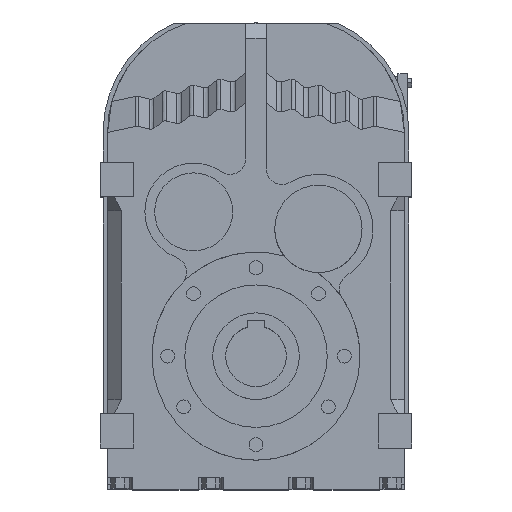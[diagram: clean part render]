
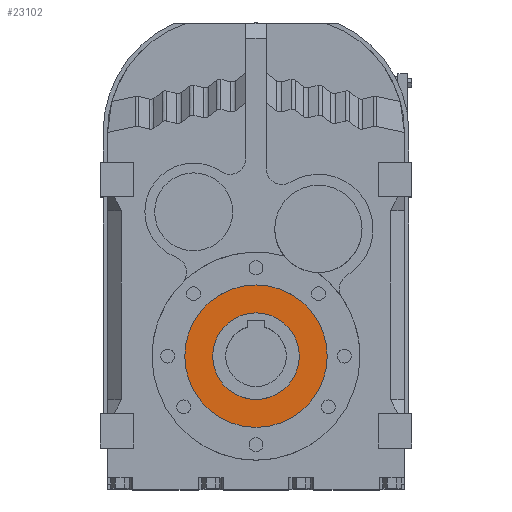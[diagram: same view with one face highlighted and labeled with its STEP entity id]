
A CAD part, top view. The second image highlights one B-rep face of the part: STEP entity #23102.
In plain terms, the highlighted planar face has unit normal (0, 0, 1).
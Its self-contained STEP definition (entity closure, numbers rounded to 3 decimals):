
#16943 = CYLINDRICAL_SURFACE('',#16944,41.1);
#16944 = AXIS2_PLACEMENT_3D('',#16945,#16946,#16947);
#16945 = CARTESIAN_POINT('',(0.,-128.1,110.123));
#16946 = DIRECTION('',(0.,0.,1.));
#16947 = DIRECTION('',(1.,0.,0.));
#16969 = CYLINDRICAL_SURFACE('',#16970,41.1);
#16970 = AXIS2_PLACEMENT_3D('',#16971,#16972,#16973);
#16971 = CARTESIAN_POINT('',(0.,-128.1,110.123));
#16972 = DIRECTION('',(0.,0.,1.));
#16973 = DIRECTION('',(1.,0.,0.));
#21839 = VERTEX_POINT('',#21840);
#21840 = CARTESIAN_POINT('',(-41.1,-128.1,128.5));
#21861 = VERTEX_POINT('',#21862);
#21862 = CARTESIAN_POINT('',(41.1,-128.1,128.5));
#21881 = EDGE_CURVE('',#21861,#21839,#21882,.T.);
#21882 = SURFACE_CURVE('',#21883,(#21888,#21894),.PCURVE_S1.);
#21883 = CIRCLE('',#21884,41.1);
#21884 = AXIS2_PLACEMENT_3D('',#21885,#21886,#21887);
#21885 = CARTESIAN_POINT('',(0.,-128.1,128.5));
#21886 = DIRECTION('',(0.,0.,1.));
#21887 = DIRECTION('',(1.,0.,0.));
#21888 = PCURVE('',#16943,#21889);
#21889 = DEFINITIONAL_REPRESENTATION('',(#21890),#21893);
#21890 = B_SPLINE_CURVE_WITH_KNOTS('',1,(#21891,#21892),.UNSPECIFIED.,
  .F.,.F.,(2,2),(0.,3.142),.PIECEWISE_BEZIER_KNOTS.);
#21891 = CARTESIAN_POINT('',(0.,18.377));
#21892 = CARTESIAN_POINT('',(3.142,18.377));
#21893 = ( GEOMETRIC_REPRESENTATION_CONTEXT(2) 
PARAMETRIC_REPRESENTATION_CONTEXT() REPRESENTATION_CONTEXT('2D SPACE',''
  ) );
#21894 = PCURVE('',#21895,#21900);
#21895 = PLANE('',#21896);
#21896 = AXIS2_PLACEMENT_3D('',#21897,#21898,#21899);
#21897 = CARTESIAN_POINT('',(0.,-87.,128.5));
#21898 = DIRECTION('',(0.,0.,1.));
#21899 = DIRECTION('',(1.,0.,0.));
#21900 = DEFINITIONAL_REPRESENTATION('',(#21901),#21905);
#21901 = CIRCLE('',#21902,41.1);
#21902 = AXIS2_PLACEMENT_2D('',#21903,#21904);
#21903 = CARTESIAN_POINT('',(0.,-41.1));
#21904 = DIRECTION('',(1.,0.));
#21905 = ( GEOMETRIC_REPRESENTATION_CONTEXT(2) 
PARAMETRIC_REPRESENTATION_CONTEXT() REPRESENTATION_CONTEXT('2D SPACE',''
  ) );
#22009 = EDGE_CURVE('',#21839,#21861,#22010,.T.);
#22010 = SURFACE_CURVE('',#22011,(#22016,#22022),.PCURVE_S1.);
#22011 = CIRCLE('',#22012,41.1);
#22012 = AXIS2_PLACEMENT_3D('',#22013,#22014,#22015);
#22013 = CARTESIAN_POINT('',(0.,-128.1,128.5));
#22014 = DIRECTION('',(0.,0.,1.));
#22015 = DIRECTION('',(1.,0.,0.));
#22016 = PCURVE('',#16969,#22017);
#22017 = DEFINITIONAL_REPRESENTATION('',(#22018),#22021);
#22018 = B_SPLINE_CURVE_WITH_KNOTS('',1,(#22019,#22020),.UNSPECIFIED.,
  .F.,.F.,(2,2),(3.142,6.283),.PIECEWISE_BEZIER_KNOTS.);
#22019 = CARTESIAN_POINT('',(3.142,18.377));
#22020 = CARTESIAN_POINT('',(6.283,18.377));
#22021 = ( GEOMETRIC_REPRESENTATION_CONTEXT(2) 
PARAMETRIC_REPRESENTATION_CONTEXT() REPRESENTATION_CONTEXT('2D SPACE',''
  ) );
#22022 = PCURVE('',#21895,#22023);
#22023 = DEFINITIONAL_REPRESENTATION('',(#22024),#22028);
#22024 = CIRCLE('',#22025,41.1);
#22025 = AXIS2_PLACEMENT_2D('',#22026,#22027);
#22026 = CARTESIAN_POINT('',(0.,-41.1));
#22027 = DIRECTION('',(1.,0.));
#22028 = ( GEOMETRIC_REPRESENTATION_CONTEXT(2) 
PARAMETRIC_REPRESENTATION_CONTEXT() REPRESENTATION_CONTEXT('2D SPACE',''
  ) );
#23102 = ADVANCED_FACE('',(#23103,#23107),#21895,.T.);
#23103 = FACE_BOUND('',#23104,.T.);
#23104 = EDGE_LOOP('',(#23105,#23106));
#23105 = ORIENTED_EDGE('',*,*,#21881,.T.);
#23106 = ORIENTED_EDGE('',*,*,#22009,.T.);
#23107 = FACE_BOUND('',#23108,.T.);
#23108 = EDGE_LOOP('',(#23109,#23139));
#23109 = ORIENTED_EDGE('',*,*,#23110,.F.);
#23110 = EDGE_CURVE('',#23111,#23113,#23115,.T.);
#23111 = VERTEX_POINT('',#23112);
#23112 = CARTESIAN_POINT('',(25.,-128.1,128.5));
#23113 = VERTEX_POINT('',#23114);
#23114 = CARTESIAN_POINT('',(-25.,-128.1,128.5));
#23115 = SURFACE_CURVE('',#23116,(#23121,#23128),.PCURVE_S1.);
#23116 = CIRCLE('',#23117,25.);
#23117 = AXIS2_PLACEMENT_3D('',#23118,#23119,#23120);
#23118 = CARTESIAN_POINT('',(0.,-128.1,128.5));
#23119 = DIRECTION('',(0.,0.,1.));
#23120 = DIRECTION('',(1.,0.,0.));
#23121 = PCURVE('',#21895,#23122);
#23122 = DEFINITIONAL_REPRESENTATION('',(#23123),#23127);
#23123 = CIRCLE('',#23124,25.);
#23124 = AXIS2_PLACEMENT_2D('',#23125,#23126);
#23125 = CARTESIAN_POINT('',(0.,-41.1));
#23126 = DIRECTION('',(1.,0.));
#23127 = ( GEOMETRIC_REPRESENTATION_CONTEXT(2) 
PARAMETRIC_REPRESENTATION_CONTEXT() REPRESENTATION_CONTEXT('2D SPACE',''
  ) );
#23128 = PCURVE('',#23129,#23134);
#23129 = CYLINDRICAL_SURFACE('',#23130,25.);
#23130 = AXIS2_PLACEMENT_3D('',#23131,#23132,#23133);
#23131 = CARTESIAN_POINT('',(0.,-128.1,110.123));
#23132 = DIRECTION('',(0.,0.,1.));
#23133 = DIRECTION('',(1.,0.,0.));
#23134 = DEFINITIONAL_REPRESENTATION('',(#23135),#23138);
#23135 = B_SPLINE_CURVE_WITH_KNOTS('',1,(#23136,#23137),.UNSPECIFIED.,
  .F.,.F.,(2,2),(0.,3.142),.PIECEWISE_BEZIER_KNOTS.);
#23136 = CARTESIAN_POINT('',(0.,18.377));
#23137 = CARTESIAN_POINT('',(3.142,18.377));
#23138 = ( GEOMETRIC_REPRESENTATION_CONTEXT(2) 
PARAMETRIC_REPRESENTATION_CONTEXT() REPRESENTATION_CONTEXT('2D SPACE',''
  ) );
#23139 = ORIENTED_EDGE('',*,*,#23140,.F.);
#23140 = EDGE_CURVE('',#23113,#23111,#23141,.T.);
#23141 = SURFACE_CURVE('',#23142,(#23147,#23154),.PCURVE_S1.);
#23142 = CIRCLE('',#23143,25.);
#23143 = AXIS2_PLACEMENT_3D('',#23144,#23145,#23146);
#23144 = CARTESIAN_POINT('',(0.,-128.1,128.5));
#23145 = DIRECTION('',(0.,0.,1.));
#23146 = DIRECTION('',(1.,0.,0.));
#23147 = PCURVE('',#21895,#23148);
#23148 = DEFINITIONAL_REPRESENTATION('',(#23149),#23153);
#23149 = CIRCLE('',#23150,25.);
#23150 = AXIS2_PLACEMENT_2D('',#23151,#23152);
#23151 = CARTESIAN_POINT('',(0.,-41.1));
#23152 = DIRECTION('',(1.,0.));
#23153 = ( GEOMETRIC_REPRESENTATION_CONTEXT(2) 
PARAMETRIC_REPRESENTATION_CONTEXT() REPRESENTATION_CONTEXT('2D SPACE',''
  ) );
#23154 = PCURVE('',#23155,#23160);
#23155 = CYLINDRICAL_SURFACE('',#23156,25.);
#23156 = AXIS2_PLACEMENT_3D('',#23157,#23158,#23159);
#23157 = CARTESIAN_POINT('',(0.,-128.1,110.123));
#23158 = DIRECTION('',(0.,0.,1.));
#23159 = DIRECTION('',(1.,0.,0.));
#23160 = DEFINITIONAL_REPRESENTATION('',(#23161),#23164);
#23161 = B_SPLINE_CURVE_WITH_KNOTS('',1,(#23162,#23163),.UNSPECIFIED.,
  .F.,.F.,(2,2),(3.142,6.283),.PIECEWISE_BEZIER_KNOTS.);
#23162 = CARTESIAN_POINT('',(3.142,18.377));
#23163 = CARTESIAN_POINT('',(6.283,18.377));
#23164 = ( GEOMETRIC_REPRESENTATION_CONTEXT(2) 
PARAMETRIC_REPRESENTATION_CONTEXT() REPRESENTATION_CONTEXT('2D SPACE',''
  ) );
